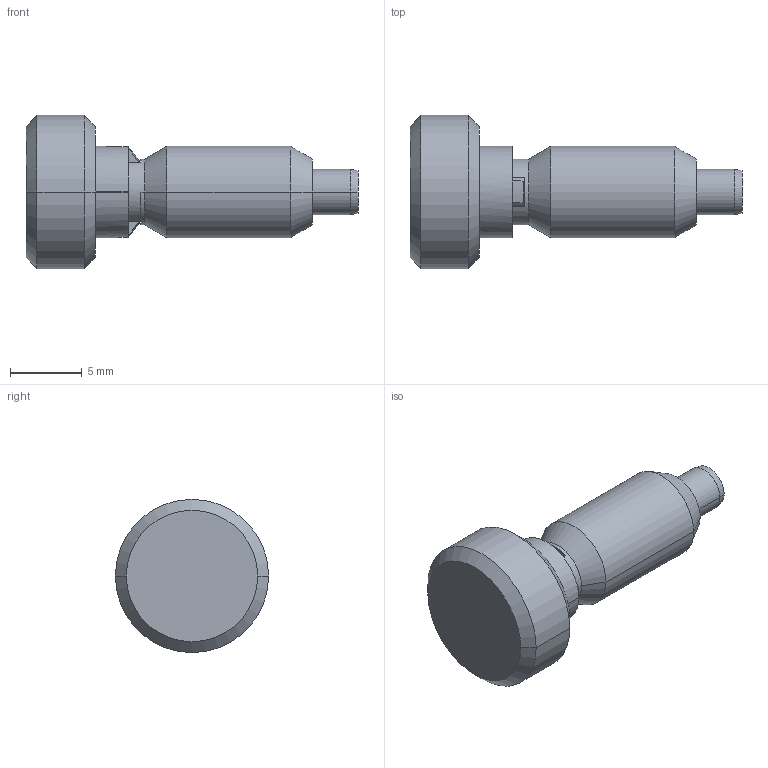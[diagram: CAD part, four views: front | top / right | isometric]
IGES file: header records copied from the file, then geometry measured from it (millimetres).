
Start section:  PTC IGES file: sl250-3d.igs
Global section: file name: sl250-3d.igs; native system: Pro/ENGINEER by Parametric Technology Corporation; preprocessor: 2002350; author: chant; organization: Unknown; date: 061214.133336; units: inch
Bounding box: 23.11 x 10.67 x 10.67 mm (x, y, z)
Surface area: 894.4 mm2 (no closed solid volume)
Topology: 0 solids, 0 shells, 52 faces, 347 edges, 431 vertices
Faces by surface type: revolution 32, bspline 20
